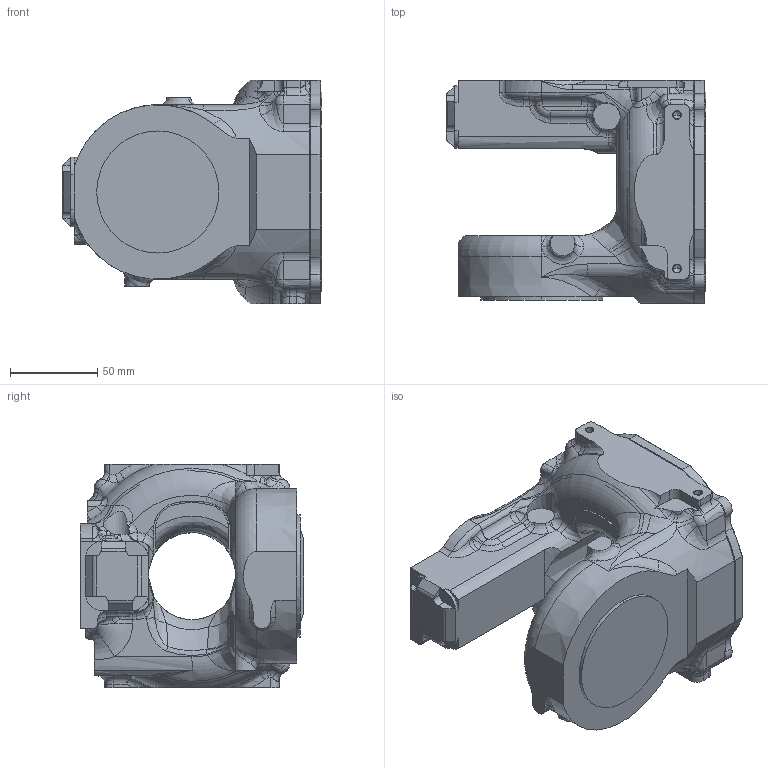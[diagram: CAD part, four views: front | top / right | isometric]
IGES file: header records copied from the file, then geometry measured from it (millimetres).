
Start section:  PTC IGES file: b_axis.igs
Global section: file name: b_axis.igs; native system: Creo Parametric by Parametric Technology Corporation; preprocessor: 2014000; author: Miyoshi_Nozomi; organization: Unknown; date: 20170724.141442; units: millimetre
Bounding box: 148.8 x 128 x 128 mm (x, y, z)
Volume: 1053055.8 mm3; surface area: 97534.5 mm2
Topology: 1 solids, 5 shells, 546 faces, 1382 edges, 839 vertices
Faces by surface type: revolution 288, bspline 258
